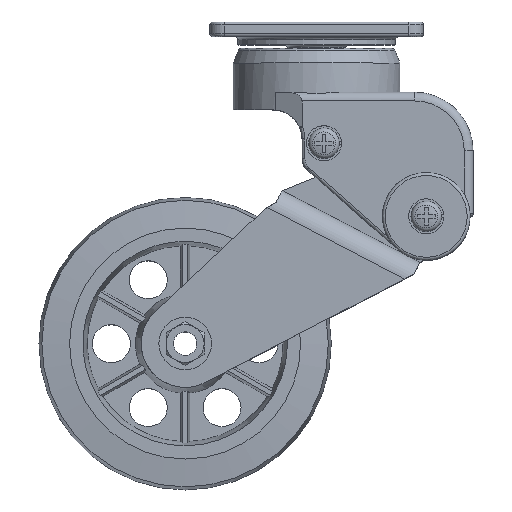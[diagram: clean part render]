
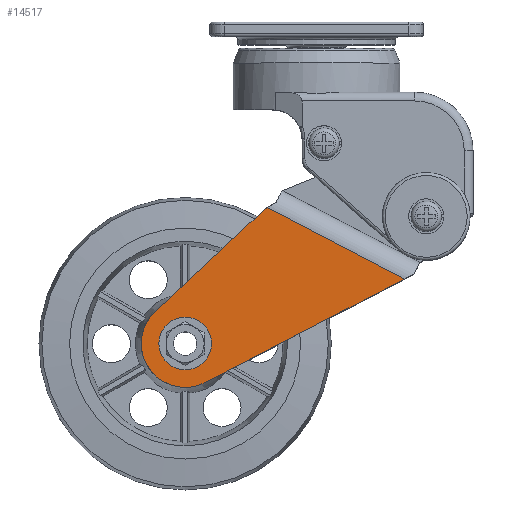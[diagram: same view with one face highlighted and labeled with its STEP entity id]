
A CAD part, top view. The second image highlights one B-rep face of the part: STEP entity #14517.
In plain terms, the highlighted planar face has unit normal (0, 0, 1).
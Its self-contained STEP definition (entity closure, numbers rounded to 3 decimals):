
#4918=CARTESIAN_POINT('',(90.608,104.894,37.0));
#4919=VERTEX_POINT('',#4918);
#4920=CARTESIAN_POINT('',(99.608,104.894,37.0));
#4921=DIRECTION('',(0.0,0.0,-1.0));
#4922=DIRECTION('',(1.0,0.0,0.0));
#4923=AXIS2_PLACEMENT_3D('',#4920,#4921,#4922);
#4924=CIRCLE('',#4923,9.0);
#4925=EDGE_CURVE('',#4919,#4919,#4924,.T.);
#14050=CARTESIAN_POINT('',(127.631,151.435,37.0));
#14051=VERTEX_POINT('',#14050);
#14059=CARTESIAN_POINT('',(174.573,126.949,37.0));
#14060=VERTEX_POINT('',#14059);
#14061=CARTESIAN_POINT('',(127.631,151.435,37.0));
#14062=DIRECTION('',(0.887,-0.462,0.0));
#14063=VECTOR('',#14062,52.944);
#14064=LINE('',#14061,#14063);
#14065=EDGE_CURVE('',#14051,#14060,#14064,.T.);
#14215=CARTESIAN_POINT('',(106.525,91.584,37.0));
#14216=VERTEX_POINT('',#14215);
#14223=CARTESIAN_POINT('',(89.371,115.858,37.0));
#14224=VERTEX_POINT('',#14223);
#14225=CARTESIAN_POINT('',(99.608,104.894,37.0));
#14226=DIRECTION('',(0.0,0.0,-1.0));
#14227=DIRECTION('',(1.0,0.0,0.0));
#14228=AXIS2_PLACEMENT_3D('',#14225,#14226,#14227);
#14229=CIRCLE('',#14228,15.0);
#14230=EDGE_CURVE('',#14216,#14224,#14229,.T.);
#14425=CARTESIAN_POINT('',(126.971,150.966,37.0));
#14426=VERTEX_POINT('',#14425);
#14427=CARTESIAN_POINT('',(127.53,151.378,37.0));
#14428=VERTEX_POINT('',#14427);
#14429=CARTESIAN_POINT('',(129.019,148.773,37.0));
#14430=DIRECTION('',(0.0,0.0,-1.0));
#14431=DIRECTION('',(-0.593,0.805,0.0));
#14432=AXIS2_PLACEMENT_3D('',#14429,#14430,#14431);
#14433=CIRCLE('',#14432,3.0);
#14434=EDGE_CURVE('',#14426,#14428,#14433,.T.);
#14468=CARTESIAN_POINT('',(127.53,151.378,37.0));
#14469=DIRECTION('',(0.868,0.496,0.0));
#14470=VECTOR('',#14469,0.116);
#14471=LINE('',#14468,#14470);
#14472=EDGE_CURVE('',#14428,#14051,#14471,.T.);
#14491=CARTESIAN_POINT('',(130.727,153.204,37.0));
#14492=DIRECTION('',(0.0,0.0,-1.0));
#14493=DIRECTION('',(-1.0,0.0,0.0));
#14494=AXIS2_PLACEMENT_3D('',#14491,#14492,#14493);
#14495=PLANE('',#14494);
#14496=ORIENTED_EDGE('',*,*,#14434,.F.);
#14497=CARTESIAN_POINT('',(89.371,115.858,37.0));
#14498=DIRECTION('',(0.731,0.682,0.0));
#14499=VECTOR('',#14498,51.443);
#14500=LINE('',#14497,#14499);
#14501=EDGE_CURVE('',#14224,#14426,#14500,.T.);
#14502=ORIENTED_EDGE('',*,*,#14501,.F.);
#14503=ORIENTED_EDGE('',*,*,#14230,.F.);
#14504=CARTESIAN_POINT('',(174.573,126.949,37.0));
#14505=DIRECTION('',(-0.887,-0.461,0.0));
#14506=VECTOR('',#14505,76.689);
#14507=LINE('',#14504,#14506);
#14508=EDGE_CURVE('',#14060,#14216,#14507,.T.);
#14509=ORIENTED_EDGE('',*,*,#14508,.F.);
#14510=ORIENTED_EDGE('',*,*,#14065,.F.);
#14511=ORIENTED_EDGE('',*,*,#14472,.F.);
#14512=EDGE_LOOP('',(#14496,#14502,#14503,#14509,#14510,#14511));
#14513=FACE_OUTER_BOUND('',#14512,.T.);
#14514=ORIENTED_EDGE('',*,*,#4925,.T.);
#14515=EDGE_LOOP('',(#14514));
#14516=FACE_BOUND('',#14515,.T.);
#14517=ADVANCED_FACE('',(#14513,#14516),#14495,.F.);
